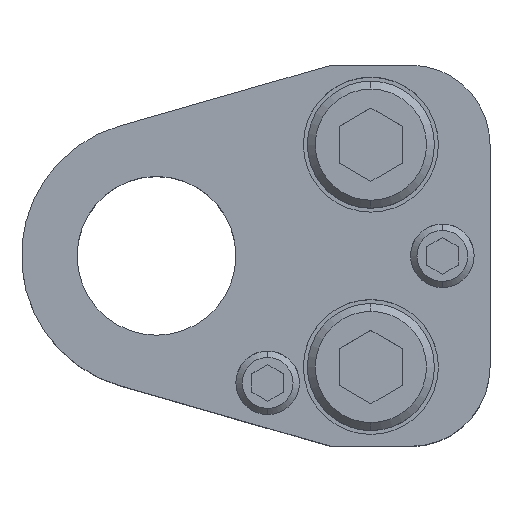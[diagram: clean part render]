
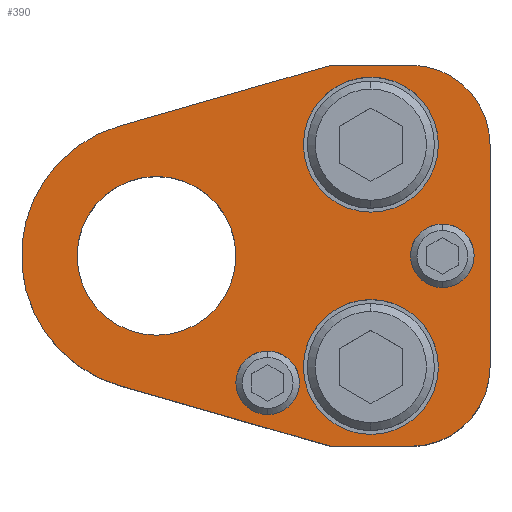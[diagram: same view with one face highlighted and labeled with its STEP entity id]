
A CAD part, top view. The second image highlights one B-rep face of the part: STEP entity #390.
In plain terms, the highlighted planar face has unit normal (0, 0, 1).
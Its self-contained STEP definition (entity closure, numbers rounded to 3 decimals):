
#191=FACE_BOUND('',#705,.T.);
#192=FACE_BOUND('',#706,.T.);
#193=FACE_BOUND('',#707,.T.);
#194=FACE_BOUND('',#708,.T.);
#195=FACE_BOUND('',#709,.T.);
#196=FACE_BOUND('',#710,.T.);
#242=CIRCLE('',#2282,10.);
#244=CIRCLE('',#2286,10.);
#246=CIRCLE('',#2290,4.);
#248=CIRCLE('',#2293,4.);
#250=CIRCLE('',#2296,4.);
#252=CIRCLE('',#2299,4.);
#262=CIRCLE('',#2314,17.);
#263=CIRCLE('',#2315,8.5);
#264=CIRCLE('',#2316,8.5);
#265=CIRCLE('',#2317,8.5);
#266=CIRCLE('',#2318,8.5);
#267=CIRCLE('',#2319,10.);
#268=CIRCLE('',#2320,10.);
#390=ADVANCED_FACE('',(#191,#192,#193,#194,#195,#196),#502,.T.);
#502=PLANE('',#2321);
#705=EDGE_LOOP('',(#997,#998,#999,#1000,#1001,#1002,#1003,#1004));
#706=EDGE_LOOP('',(#1005,#1006));
#707=EDGE_LOOP('',(#1007,#1008));
#708=EDGE_LOOP('',(#1009,#1010));
#709=EDGE_LOOP('',(#1011,#1012));
#710=EDGE_LOOP('',(#1013,#1014));
#997=ORIENTED_EDGE('',*,*,#1702,.T.);
#998=ORIENTED_EDGE('',*,*,#1703,.T.);
#999=ORIENTED_EDGE('',*,*,#1663,.T.);
#1000=ORIENTED_EDGE('',*,*,#1667,.T.);
#1001=ORIENTED_EDGE('',*,*,#1670,.T.);
#1002=ORIENTED_EDGE('',*,*,#1673,.T.);
#1003=ORIENTED_EDGE('',*,*,#1676,.T.);
#1004=ORIENTED_EDGE('',*,*,#1704,.T.);
#1005=ORIENTED_EDGE('',*,*,#1705,.F.);
#1006=ORIENTED_EDGE('',*,*,#1706,.F.);
#1007=ORIENTED_EDGE('',*,*,#1707,.F.);
#1008=ORIENTED_EDGE('',*,*,#1708,.F.);
#1009=ORIENTED_EDGE('',*,*,#1688,.F.);
#1010=ORIENTED_EDGE('',*,*,#1684,.F.);
#1011=ORIENTED_EDGE('',*,*,#1682,.F.);
#1012=ORIENTED_EDGE('',*,*,#1678,.F.);
#1013=ORIENTED_EDGE('',*,*,#1709,.T.);
#1014=ORIENTED_EDGE('',*,*,#1710,.T.);
#1450=VERTEX_POINT('',#3309);
#1451=VERTEX_POINT('',#3311);
#1454=VERTEX_POINT('',#3318);
#1456=VERTEX_POINT('',#3324);
#1458=VERTEX_POINT('',#3330);
#1460=VERTEX_POINT('',#3336);
#1461=VERTEX_POINT('',#3341);
#1462=VERTEX_POINT('',#3342);
#1465=VERTEX_POINT('',#3353);
#1466=VERTEX_POINT('',#3354);
#1477=VERTEX_POINT('',#3389);
#1478=VERTEX_POINT('',#3390);
#1479=VERTEX_POINT('',#3394);
#1480=VERTEX_POINT('',#3395);
#1481=VERTEX_POINT('',#3398);
#1482=VERTEX_POINT('',#3399);
#1483=VERTEX_POINT('',#3402);
#1484=VERTEX_POINT('',#3403);
#1663=EDGE_CURVE('',#1451,#1450,#1943,.T.);
#1667=EDGE_CURVE('',#1450,#1454,#242,.T.);
#1670=EDGE_CURVE('',#1454,#1456,#1948,.T.);
#1673=EDGE_CURVE('',#1456,#1458,#244,.T.);
#1676=EDGE_CURVE('',#1458,#1460,#1952,.T.);
#1678=EDGE_CURVE('',#1461,#1462,#246,.T.);
#1682=EDGE_CURVE('',#1462,#1461,#248,.T.);
#1684=EDGE_CURVE('',#1465,#1466,#250,.T.);
#1688=EDGE_CURVE('',#1466,#1465,#252,.T.);
#1702=EDGE_CURVE('',#1477,#1478,#262,.T.);
#1703=EDGE_CURVE('',#1478,#1451,#1962,.T.);
#1704=EDGE_CURVE('',#1460,#1477,#1963,.T.);
#1705=EDGE_CURVE('',#1479,#1480,#263,.T.);
#1706=EDGE_CURVE('',#1480,#1479,#264,.T.);
#1707=EDGE_CURVE('',#1481,#1482,#265,.T.);
#1708=EDGE_CURVE('',#1482,#1481,#266,.T.);
#1709=EDGE_CURVE('',#1483,#1484,#267,.T.);
#1710=EDGE_CURVE('',#1484,#1483,#268,.T.);
#1943=LINE('',#3310,#2113);
#1948=LINE('',#3325,#2118);
#1952=LINE('',#3337,#2122);
#1962=LINE('',#3391,#2132);
#1963=LINE('',#3392,#2133);
#2113=VECTOR('',#2633,1.);
#2118=VECTOR('',#2646,1.);
#2122=VECTOR('',#2658,1.);
#2132=VECTOR('',#2720,1.);
#2133=VECTOR('',#2721,1.);
#2282=AXIS2_PLACEMENT_3D('',#3319,#2639,#2640);
#2286=AXIS2_PLACEMENT_3D('',#3331,#2651,#2652);
#2290=AXIS2_PLACEMENT_3D('',#3340,#2662,#2663);
#2293=AXIS2_PLACEMENT_3D('',#3349,#2670,#2671);
#2296=AXIS2_PLACEMENT_3D('',#3352,#2676,#2677);
#2299=AXIS2_PLACEMENT_3D('',#3361,#2684,#2685);
#2314=AXIS2_PLACEMENT_3D('',#3388,#2718,#2719);
#2315=AXIS2_PLACEMENT_3D('',#3393,#2722,#2723);
#2316=AXIS2_PLACEMENT_3D('',#3396,#2724,#2725);
#2317=AXIS2_PLACEMENT_3D('',#3397,#2726,#2727);
#2318=AXIS2_PLACEMENT_3D('',#3400,#2728,#2729);
#2319=AXIS2_PLACEMENT_3D('',#3401,#2730,#2731);
#2320=AXIS2_PLACEMENT_3D('',#3404,#2732,#2733);
#2321=AXIS2_PLACEMENT_3D('',#3405,#2734,#2735);
#2633=DIRECTION('',(1.,0.,0.));
#2639=DIRECTION('',(0.,0.,1.));
#2640=DIRECTION('',(-0.707,0.707,0.));
#2646=DIRECTION('',(0.,1.,0.));
#2651=DIRECTION('',(0.,0.,1.));
#2652=DIRECTION('',(-0.707,-0.707,0.));
#2658=DIRECTION('',(-1.,0.,0.));
#2662=DIRECTION('',(0.,0.,1.));
#2663=DIRECTION('',(1.,0.,0.));
#2670=DIRECTION('',(0.,0.,1.));
#2671=DIRECTION('',(-1.,0.,0.));
#2676=DIRECTION('',(0.,0.,1.));
#2677=DIRECTION('',(1.,0.,0.));
#2684=DIRECTION('',(0.,0.,1.));
#2685=DIRECTION('',(-1.,0.,0.));
#2718=DIRECTION('',(0.,0.,1.));
#2719=DIRECTION('',(0.,1.,0.));
#2720=DIRECTION('',(0.961,-0.276,0.));
#2721=DIRECTION('',(-0.961,-0.276,0.));
#2722=DIRECTION('',(0.,0.,1.));
#2723=DIRECTION('',(1.,0.,0.));
#2724=DIRECTION('',(0.,0.,1.));
#2725=DIRECTION('',(-1.,0.,0.));
#2726=DIRECTION('',(0.,0.,1.));
#2727=DIRECTION('',(1.,0.,0.));
#2728=DIRECTION('',(0.,0.,1.));
#2729=DIRECTION('',(-1.,0.,0.));
#2730=DIRECTION('',(0.,0.,-1.));
#2731=DIRECTION('',(-1.,0.,0.));
#2732=DIRECTION('',(0.,0.,-1.));
#2733=DIRECTION('',(1.,0.,0.));
#2734=DIRECTION('',(0.,0.,1.));
#2735=DIRECTION('',(0.961,0.276,0.));
#3309=CARTESIAN_POINT('',(32.,-24.,30.));
#3310=CARTESIAN_POINT('',(22.,-24.,30.));
#3311=CARTESIAN_POINT('',(22.,-24.,30.));
#3318=CARTESIAN_POINT('',(42.,-14.,30.));
#3319=CARTESIAN_POINT('',(32.,-14.,30.));
#3324=CARTESIAN_POINT('',(42.,14.,30.));
#3325=CARTESIAN_POINT('',(42.,-14.,30.));
#3330=CARTESIAN_POINT('',(32.,24.,30.));
#3331=CARTESIAN_POINT('',(32.,14.,30.));
#3336=CARTESIAN_POINT('',(22.,24.,30.));
#3337=CARTESIAN_POINT('',(22.,24.,30.));
#3340=CARTESIAN_POINT('',(14.,-16.,30.));
#3341=CARTESIAN_POINT('',(14.,-12.,30.));
#3342=CARTESIAN_POINT('',(14.,-20.,30.));
#3349=CARTESIAN_POINT('',(14.,-16.,30.));
#3352=CARTESIAN_POINT('',(36.,0.,30.));
#3353=CARTESIAN_POINT('',(36.,4.,30.));
#3354=CARTESIAN_POINT('',(36.,-4.,30.));
#3361=CARTESIAN_POINT('',(36.,0.,30.));
#3388=CARTESIAN_POINT('',(0.,0.,30.));
#3389=CARTESIAN_POINT('',(-4.69,16.34,30.));
#3390=CARTESIAN_POINT('',(-4.69,-16.34,30.));
#3391=CARTESIAN_POINT('',(22.,-24.,30.));
#3392=CARTESIAN_POINT('',(22.,24.,30.));
#3393=CARTESIAN_POINT('',(27.,-14.,30.));
#3394=CARTESIAN_POINT('',(27.,-5.5,30.));
#3395=CARTESIAN_POINT('',(27.,-22.5,30.));
#3396=CARTESIAN_POINT('',(27.,-14.,30.));
#3397=CARTESIAN_POINT('',(27.,14.,30.));
#3398=CARTESIAN_POINT('',(27.,22.5,30.));
#3399=CARTESIAN_POINT('',(27.,5.5,30.));
#3400=CARTESIAN_POINT('',(27.,14.,30.));
#3401=CARTESIAN_POINT('',(0.,0.,30.));
#3402=CARTESIAN_POINT('',(0.,10.,30.));
#3403=CARTESIAN_POINT('',(0.,-10.,30.));
#3404=CARTESIAN_POINT('',(0.,0.,30.));
#3405=CARTESIAN_POINT('',(-4.69,16.34,30.));
